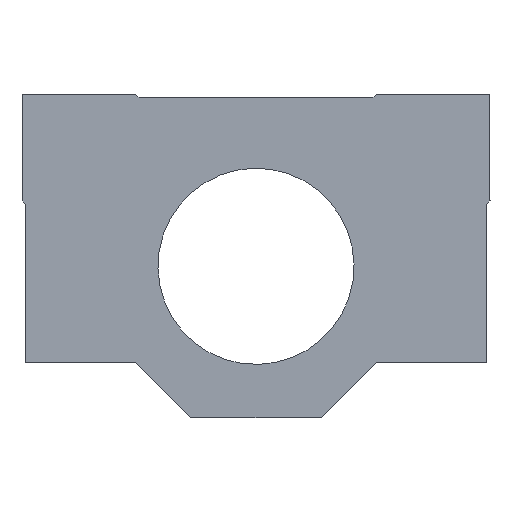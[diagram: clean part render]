
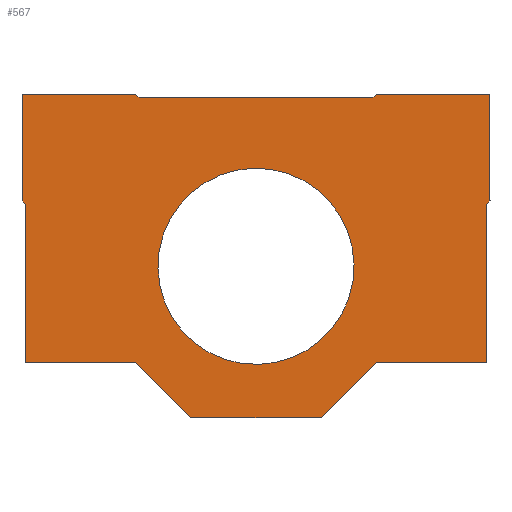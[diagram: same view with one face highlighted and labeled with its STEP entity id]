
A CAD part, left-side view. The second image highlights one B-rep face of the part: STEP entity #567.
In plain terms, the highlighted planar face has unit normal (-1, 0, 0).
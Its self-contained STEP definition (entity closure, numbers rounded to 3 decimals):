
#147=CARTESIAN_POINT('Vertex',(0.,33.5,-14.)) ;
#163=CARTESIAN_POINT('Vertex',(0.,17.5,-14.)) ;
#166=CARTESIAN_POINT('Line Origine',(0.,25.5,-14.)) ;
#209=CARTESIAN_POINT('Vertex',(0.,17.5,25.)) ;
#225=CARTESIAN_POINT('Vertex',(0.,34.,25.)) ;
#228=CARTESIAN_POINT('Line Origine',(0.,25.75,25.)) ;
#267=CARTESIAN_POINT('Line Origine',(0.,33.5,-2.5)) ;
#271=CARTESIAN_POINT('Vertex',(0.,33.5,9.)) ;
#431=CARTESIAN_POINT('Vertex',(0.,9.5,-22.)) ;
#434=CARTESIAN_POINT('Line Origine',(0.,13.5,-18.)) ;
#446=CARTESIAN_POINT('Axis2P3D Location',(0.,0.,0.)) ;
#451=CARTESIAN_POINT('Line Origine',(0.,0.,-22.)) ;
#455=CARTESIAN_POINT('Vertex',(0.,-9.5,-22.)) ;
#458=CARTESIAN_POINT('Line Origine',(0.,-13.5,-18.)) ;
#462=CARTESIAN_POINT('Vertex',(0.,-17.5,-14.)) ;
#465=CARTESIAN_POINT('Line Origine',(0.,-25.5,-14.)) ;
#469=CARTESIAN_POINT('Vertex',(0.,-33.5,-14.)) ;
#472=CARTESIAN_POINT('Line Origine',(0.,-33.5,-2.5)) ;
#476=CARTESIAN_POINT('Vertex',(0.,-33.5,9.)) ;
#479=CARTESIAN_POINT('Line Origine',(0.,-33.75,9.25)) ;
#483=CARTESIAN_POINT('Vertex',(0.,-34.,9.5)) ;
#486=CARTESIAN_POINT('Line Origine',(0.,-34.,17.25)) ;
#490=CARTESIAN_POINT('Vertex',(0.,-34.,25.)) ;
#493=CARTESIAN_POINT('Line Origine',(0.,-25.75,25.)) ;
#497=CARTESIAN_POINT('Vertex',(0.,-17.5,25.)) ;
#500=CARTESIAN_POINT('Line Origine',(0.,-17.25,24.75)) ;
#504=CARTESIAN_POINT('Vertex',(0.,-17.,24.5)) ;
#507=CARTESIAN_POINT('Line Origine',(0.,0.,24.5)) ;
#511=CARTESIAN_POINT('Vertex',(0.,17.,24.5)) ;
#514=CARTESIAN_POINT('Line Origine',(0.,17.25,24.75)) ;
#519=CARTESIAN_POINT('Line Origine',(0.,34.,17.25)) ;
#523=CARTESIAN_POINT('Vertex',(0.,34.,9.5)) ;
#526=CARTESIAN_POINT('Line Origine',(0.,33.75,9.25)) ;
#549=CARTESIAN_POINT('Axis2P3D Location',(0.,0.,0.)) ;
#553=CARTESIAN_POINT('Vertex',(0.,-12.506,-6.832)) ;
#555=CARTESIAN_POINT('Vertex',(0.,12.506,6.832)) ;
#558=CARTESIAN_POINT('Axis2P3D Location',(0.,0.,0.)) ;
#167=DIRECTION('Vector Direction',(0.,-1.,0.)) ;
#229=DIRECTION('Vector Direction',(0.,1.,0.)) ;
#268=DIRECTION('Vector Direction',(0.,0.,-1.)) ;
#435=DIRECTION('Vector Direction',(0.,-0.707,-0.707)) ;
#447=DIRECTION('Axis2P3D Direction',(1.,0.,0.)) ;
#448=DIRECTION('Axis2P3D XDirection',(0.,1.,0.)) ;
#452=DIRECTION('Vector Direction',(0.,-1.,0.)) ;
#459=DIRECTION('Vector Direction',(0.,0.707,-0.707)) ;
#466=DIRECTION('Vector Direction',(0.,1.,0.)) ;
#473=DIRECTION('Vector Direction',(0.,0.,-1.)) ;
#480=DIRECTION('Vector Direction',(0.,0.707,-0.707)) ;
#487=DIRECTION('Vector Direction',(0.,0.,-1.)) ;
#494=DIRECTION('Vector Direction',(0.,1.,0.)) ;
#501=DIRECTION('Vector Direction',(0.,0.707,-0.707)) ;
#508=DIRECTION('Vector Direction',(0.,1.,0.)) ;
#515=DIRECTION('Vector Direction',(0.,0.707,0.707)) ;
#520=DIRECTION('Vector Direction',(0.,0.,1.)) ;
#527=DIRECTION('Vector Direction',(0.,-0.707,-0.707)) ;
#550=DIRECTION('Axis2P3D Direction',(1.,0.,0.)) ;
#559=DIRECTION('Axis2P3D Direction',(1.,0.,0.)) ;
#449=AXIS2_PLACEMENT_3D('Plane Axis2P3D',#446,#447,#448) ;
#551=AXIS2_PLACEMENT_3D('Circle Axis2P3D',#549,#550,$) ;
#560=AXIS2_PLACEMENT_3D('Circle Axis2P3D',#558,#559,$) ;
#532=ORIENTED_EDGE('',*,*,#457,.F.) ;
#533=ORIENTED_EDGE('',*,*,#464,.F.) ;
#534=ORIENTED_EDGE('',*,*,#471,.F.) ;
#535=ORIENTED_EDGE('',*,*,#478,.F.) ;
#536=ORIENTED_EDGE('',*,*,#485,.F.) ;
#537=ORIENTED_EDGE('',*,*,#492,.F.) ;
#538=ORIENTED_EDGE('',*,*,#499,.F.) ;
#539=ORIENTED_EDGE('',*,*,#506,.T.) ;
#540=ORIENTED_EDGE('',*,*,#513,.T.) ;
#541=ORIENTED_EDGE('',*,*,#518,.T.) ;
#542=ORIENTED_EDGE('',*,*,#232,.F.) ;
#543=ORIENTED_EDGE('',*,*,#525,.F.) ;
#544=ORIENTED_EDGE('',*,*,#530,.F.) ;
#545=ORIENTED_EDGE('',*,*,#273,.F.) ;
#546=ORIENTED_EDGE('',*,*,#170,.F.) ;
#547=ORIENTED_EDGE('',*,*,#438,.F.) ;
#564=ORIENTED_EDGE('',*,*,#557,.T.) ;
#565=ORIENTED_EDGE('',*,*,#562,.T.) ;
#566=FACE_BOUND('',#563,.T.) ;
#168=VECTOR('Line Direction',#167,1.) ;
#230=VECTOR('Line Direction',#229,1.) ;
#269=VECTOR('Line Direction',#268,1.) ;
#436=VECTOR('Line Direction',#435,1.) ;
#453=VECTOR('Line Direction',#452,1.) ;
#460=VECTOR('Line Direction',#459,1.) ;
#467=VECTOR('Line Direction',#466,1.) ;
#474=VECTOR('Line Direction',#473,1.) ;
#481=VECTOR('Line Direction',#480,1.) ;
#488=VECTOR('Line Direction',#487,1.) ;
#495=VECTOR('Line Direction',#494,1.) ;
#502=VECTOR('Line Direction',#501,1.) ;
#509=VECTOR('Line Direction',#508,1.) ;
#516=VECTOR('Line Direction',#515,1.) ;
#521=VECTOR('Line Direction',#520,1.) ;
#528=VECTOR('Line Direction',#527,1.) ;
#567=ADVANCED_FACE('BTM28',(#548,#566),#450,.F.) ;
#552=CIRCLE('generated circle',#551,14.25) ;
#561=CIRCLE('generated circle',#560,14.25) ;
#170=EDGE_CURVE('',#164,#148,#169,.F.) ;
#232=EDGE_CURVE('',#226,#210,#231,.F.) ;
#273=EDGE_CURVE('',#148,#272,#270,.F.) ;
#438=EDGE_CURVE('',#432,#164,#437,.F.) ;
#457=EDGE_CURVE('',#456,#432,#454,.F.) ;
#464=EDGE_CURVE('',#463,#456,#461,.T.) ;
#471=EDGE_CURVE('',#470,#463,#468,.T.) ;
#478=EDGE_CURVE('',#477,#470,#475,.T.) ;
#485=EDGE_CURVE('',#484,#477,#482,.T.) ;
#492=EDGE_CURVE('',#491,#484,#489,.T.) ;
#499=EDGE_CURVE('',#498,#491,#496,.F.) ;
#506=EDGE_CURVE('',#498,#505,#503,.T.) ;
#513=EDGE_CURVE('',#505,#512,#510,.T.) ;
#518=EDGE_CURVE('',#512,#210,#517,.T.) ;
#525=EDGE_CURVE('',#524,#226,#522,.T.) ;
#530=EDGE_CURVE('',#272,#524,#529,.F.) ;
#557=EDGE_CURVE('',#554,#556,#552,.T.) ;
#562=EDGE_CURVE('',#556,#554,#561,.T.) ;
#531=EDGE_LOOP('',(#532,#533,#534,#535,#536,#537,#538,#539,#540,#541,#542,#543,#544,#545,#546,#547)) ;
#563=EDGE_LOOP('',(#564,#565)) ;
#548=FACE_OUTER_BOUND('',#531,.T.) ;
#169=LINE('Line',#166,#168) ;
#231=LINE('Line',#228,#230) ;
#270=LINE('Line',#267,#269) ;
#437=LINE('Line',#434,#436) ;
#454=LINE('Line',#451,#453) ;
#461=LINE('Line',#458,#460) ;
#468=LINE('Line',#465,#467) ;
#475=LINE('Line',#472,#474) ;
#482=LINE('Line',#479,#481) ;
#489=LINE('Line',#486,#488) ;
#496=LINE('Line',#493,#495) ;
#503=LINE('Line',#500,#502) ;
#510=LINE('Line',#507,#509) ;
#517=LINE('Line',#514,#516) ;
#522=LINE('Line',#519,#521) ;
#529=LINE('Line',#526,#528) ;
#450=PLANE('',#449) ;
#148=VERTEX_POINT('',#147) ;
#164=VERTEX_POINT('',#163) ;
#210=VERTEX_POINT('',#209) ;
#226=VERTEX_POINT('',#225) ;
#272=VERTEX_POINT('',#271) ;
#432=VERTEX_POINT('',#431) ;
#456=VERTEX_POINT('',#455) ;
#463=VERTEX_POINT('',#462) ;
#470=VERTEX_POINT('',#469) ;
#477=VERTEX_POINT('',#476) ;
#484=VERTEX_POINT('',#483) ;
#491=VERTEX_POINT('',#490) ;
#498=VERTEX_POINT('',#497) ;
#505=VERTEX_POINT('',#504) ;
#512=VERTEX_POINT('',#511) ;
#524=VERTEX_POINT('',#523) ;
#554=VERTEX_POINT('',#553) ;
#556=VERTEX_POINT('',#555) ;
